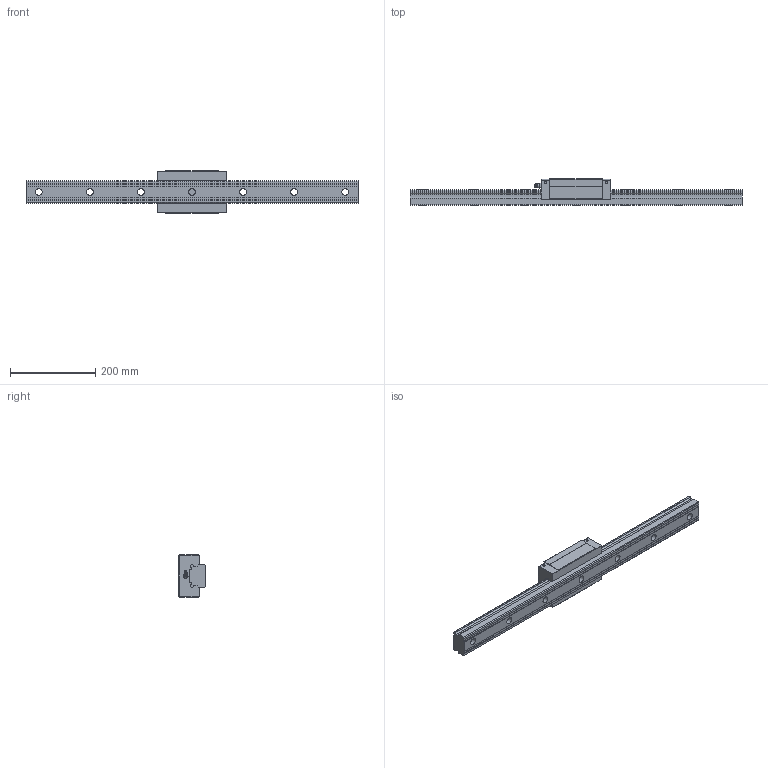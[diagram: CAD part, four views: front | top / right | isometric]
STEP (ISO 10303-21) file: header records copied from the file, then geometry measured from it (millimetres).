
FILE_DESCRIPTION(/* description */ ('STEP AP203'),/* implementation_level */ '2;1');
FILE_NAME(/* name */ 'SVR55R1SS-780L_G30_0_B-PT18_308-35_0_0_0_1',/* time_stamp */ '2024-05-17T07:06:35+02:00',/* author */ ('License CC BY-ND 4.0'),/* organization */ ('CADENAS'),/* preprocessor_version */ 'ST-DEVELOPER v19.3',/* originating_system */ 'PARTsolutions',/* authorisation */ ' ');
FILE_SCHEMA (('CONFIG_CONTROL_DESIGN'));
Length unit declared in the file: millimetre
Products named in the file (4): SVR55R1SS-780L_G30_0_B-PT18_308-35_0_0_0_1; SVR 55R78030 R Track; SVR 55R1SSB-PT1/81 Slide; B-PT1/8_grease_nipple_joint1_SVR
Assembly tree (3 placements, depth 2):
  SVR55R1SS-780L_G30_0_B-PT18_308-35_0_0_0_1
    SVR 55R78030 R Track
    SVR 55R1SSB-PT1/81 Slide
    B-PT1/8_grease_nipple_joint1_SVR
Bounding box: 780 x 63 x 100 mm (x, y, z)
Volume: 1919048.1 mm3; surface area: 228176.7 mm2
Topology: 3 solids, 3 shells, 180 faces, 470 edges, 309 vertices
Faces by surface type: plane 100, cylinder 55, cone 20, torus 3, sphere 2
Full cylindrical faces by diameter (mm): 5.2 x4, 9.6 x1, 10.106 x4, 16 x7, 23 x7
Entity records: 5340 total; most frequent: CARTESIAN_POINT 1011, DIRECTION 878, ORIENTED_EDGE 806, EDGE_CURVE 403, AXIS2_PLACEMENT_3D 318, VERTEX_POINT 296, FACE_BOUND 261, EDGE_LOOP 255
